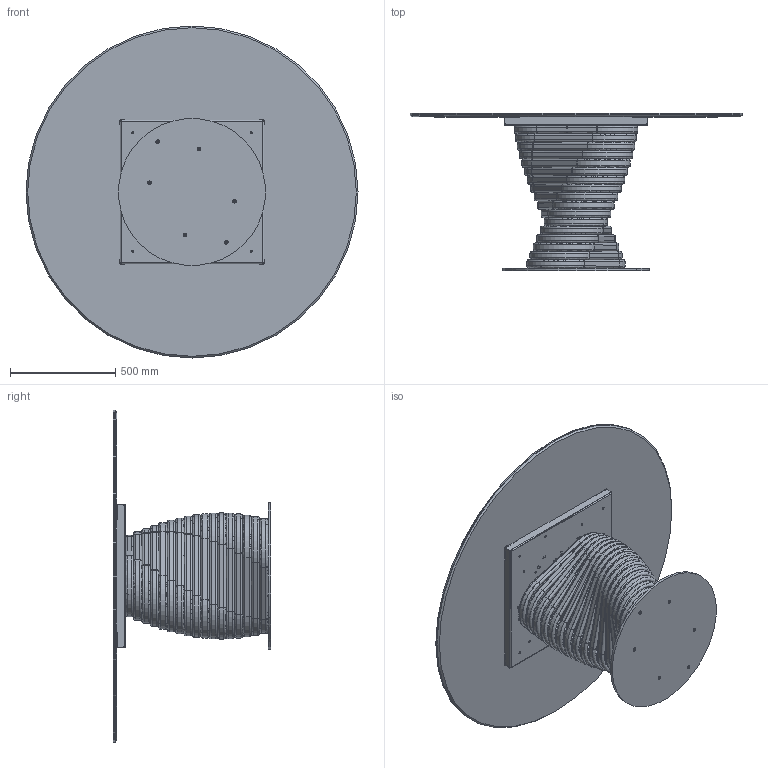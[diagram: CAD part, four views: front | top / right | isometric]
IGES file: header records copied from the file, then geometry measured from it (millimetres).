
Start section: SolidWorks IGES file using analytic representation for surfaces
Global section: file name: Y:\eforma\TECNICO\SOLIDWORKS\E-FORMA\1-TAVOLI\ROTOLO\02 parts\RO07C.IGS; native system: SolidWorks 2022; preprocessor: SolidWorks 2022; author: eforma.tech; date: 240807.150958; units: millimetre
Bounding box: 1580 x 748 x 1580 mm (x, y, z)
Volume: 43039347.7 mm3; surface area: 14783997.9 mm2
Topology: 98 solids, 98 shells, 1638 faces, 4010 edges, 2548 vertices
Faces by surface type: revolution 942, plane 696
